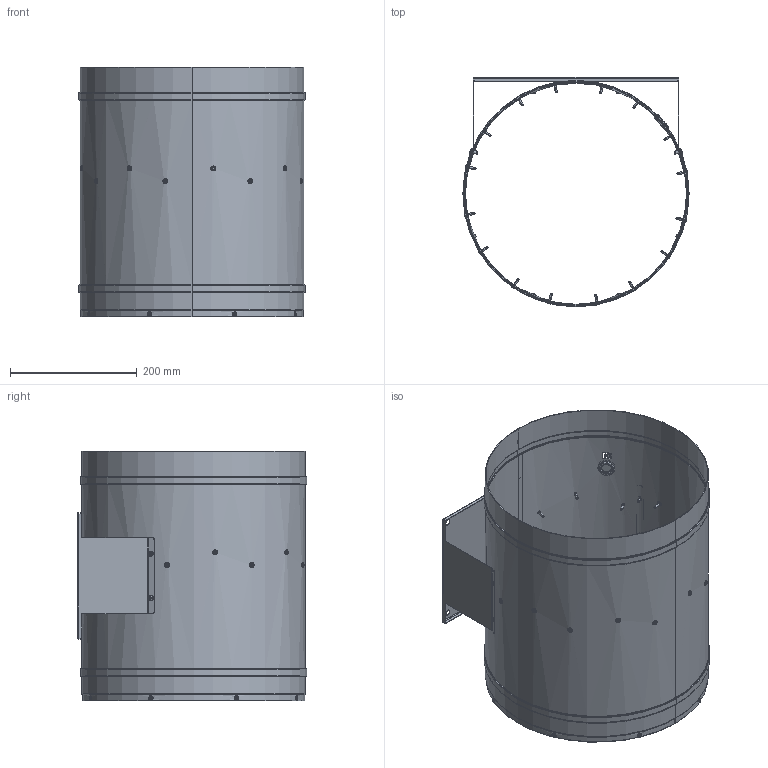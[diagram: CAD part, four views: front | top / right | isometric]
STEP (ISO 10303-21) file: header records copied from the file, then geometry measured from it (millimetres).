
FILE_DESCRIPTION (( 'STEP AP203' ), '1' );
FILE_NAME ('112760-02_EL355D201.STEP', '2014-05-12T11:38:38', ( '' ), ( '' ), 'SwSTEP 2.0', 'SolidWorks 2012', '' );
FILE_SCHEMA (( 'CONFIG_CONTROL_DESIGN' ));
Length unit declared in the file: millimetre
Products named in the file (1): 112760-02_EL355D201
Bounding box: 357.5 x 362.5 x 394.5 mm (x, y, z)
Surface area: 1087683.1 mm2 (no closed solid volume)
Topology: 0 solids, 76 shells, 580 faces, 1884 edges, 1317 vertices
Faces by surface type: cylinder 237, plane 139, cone 106, torus 78, bspline 20
Entity records: 24928 total; most frequent: CARTESIAN_POINT 8345, DIRECTION 3740, ORIENTED_EDGE 2910, EDGE_CURVE 1884, AXIS2_PLACEMENT_3D 1593, VERTEX_POINT 1317, CIRCLE 1032, EDGE_LOOP 702
